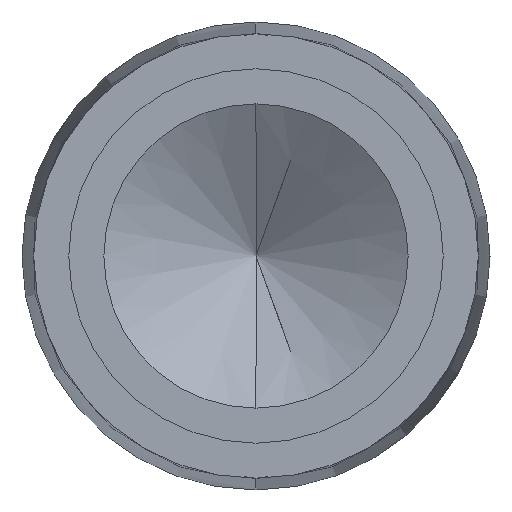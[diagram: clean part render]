
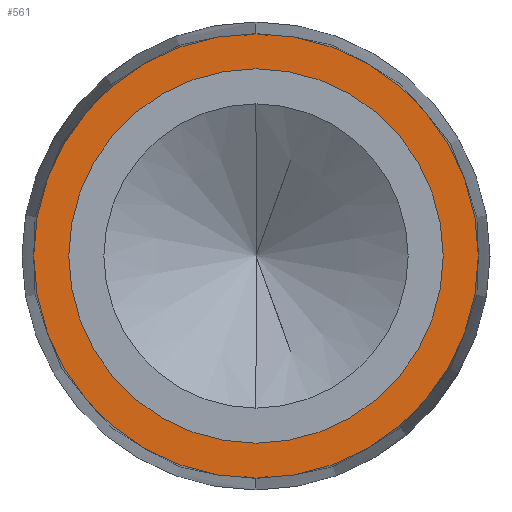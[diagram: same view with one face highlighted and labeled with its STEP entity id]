
A CAD part, left-side view. The second image highlights one B-rep face of the part: STEP entity #561.
In plain terms, the highlighted planar face has unit normal (-1, 0, 0).
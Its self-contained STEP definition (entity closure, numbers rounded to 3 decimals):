
#52 = EDGE_LOOP ( 'NONE', ( #659, #607 ) ) ;
#53 = EDGE_LOOP ( 'NONE', ( #581, #664 ) ) ;
#133 = FACE_BOUND ( 'NONE', #53, .T. ) ;
#134 = FACE_OUTER_BOUND ( 'NONE', #52, .T. ) ;
#191 = VERTEX_POINT ( 'NONE', #689 ) ;
#192 = VERTEX_POINT ( 'NONE', #691 ) ;
#271 = DIRECTION ( 'NONE',  ( 0., 0., 1. ) ) ;
#272 = DIRECTION ( 'NONE',  ( -1., 0., 0. ) ) ;
#273 = CARTESIAN_POINT ( 'NONE',  ( 0., 0., 0. ) ) ;
#301 = CARTESIAN_POINT ( 'NONE',  ( 0., 0., 0. ) ) ;
#302 = DIRECTION ( 'NONE',  ( 0., 0., 1. ) ) ;
#303 = DIRECTION ( 'NONE',  ( -1., 0., 0. ) ) ;
#338 = CARTESIAN_POINT ( 'NONE',  ( 0., 0., 8. ) ) ;
#339 = CARTESIAN_POINT ( 'NONE',  ( 0., 0., -8. ) ) ;
#415 = DIRECTION ( 'NONE',  ( 0., 0., -1. ) ) ;
#416 = DIRECTION ( 'NONE',  ( 1., 0., 0. ) ) ;
#418 = CARTESIAN_POINT ( 'NONE',  ( 0., 0., 0. ) ) ;
#419 = PLANE ( 'NONE',  #759 ) ;
#516 = EDGE_CURVE ( 'NONE', #192, #191, #693, .T. ) ;
#530 = EDGE_CURVE ( 'NONE', #875, #876, #710, .T. ) ;
#547 = EDGE_CURVE ( 'NONE', #876, #875, #719, .T. ) ;
#555 = EDGE_CURVE ( 'NONE', #191, #192, #743, .T. ) ;
#561 = ADVANCED_FACE ( 'NONE', ( #133, #134 ), #419, .F. ) ;
#581 = ORIENTED_EDGE ( 'NONE', *, *, #547, .F. ) ;
#607 = ORIENTED_EDGE ( 'NONE', *, *, #555, .T. ) ;
#659 = ORIENTED_EDGE ( 'NONE', *, *, #516, .T. ) ;
#664 = ORIENTED_EDGE ( 'NONE', *, *, #530, .F. ) ;
#689 = CARTESIAN_POINT ( 'NONE',  ( 0., 0., 9.5 ) ) ;
#691 = CARTESIAN_POINT ( 'NONE',  ( 0., 0., -9.5 ) ) ;
#693 = CIRCLE ( 'NONE', #694, 9.5 ) ;
#694 = AXIS2_PLACEMENT_3D ( 'NONE', #1078, #1079, #1082 ) ;
#708 = AXIS2_PLACEMENT_3D ( 'NONE', #1013, #1012, #1011 ) ;
#710 = CIRCLE ( 'NONE', #708, 8. ) ;
#719 = CIRCLE ( 'NONE', #737, 8. ) ;
#737 = AXIS2_PLACEMENT_3D ( 'NONE', #301, #303, #302 ) ;
#743 = CIRCLE ( 'NONE', #748, 9.5 ) ;
#748 = AXIS2_PLACEMENT_3D ( 'NONE', #273, #272, #271 ) ;
#759 = AXIS2_PLACEMENT_3D ( 'NONE', #418, #416, #415 ) ;
#875 = VERTEX_POINT ( 'NONE', #339 ) ;
#876 = VERTEX_POINT ( 'NONE', #338 ) ;
#1011 = DIRECTION ( 'NONE',  ( 0., 0., 1. ) ) ;
#1012 = DIRECTION ( 'NONE',  ( -1., 0., 0. ) ) ;
#1013 = CARTESIAN_POINT ( 'NONE',  ( 0., 0., 0. ) ) ;
#1078 = CARTESIAN_POINT ( 'NONE',  ( 0., 0., 0. ) ) ;
#1079 = DIRECTION ( 'NONE',  ( -1., 0., 0. ) ) ;
#1082 = DIRECTION ( 'NONE',  ( 0., 0., 1. ) ) ;
